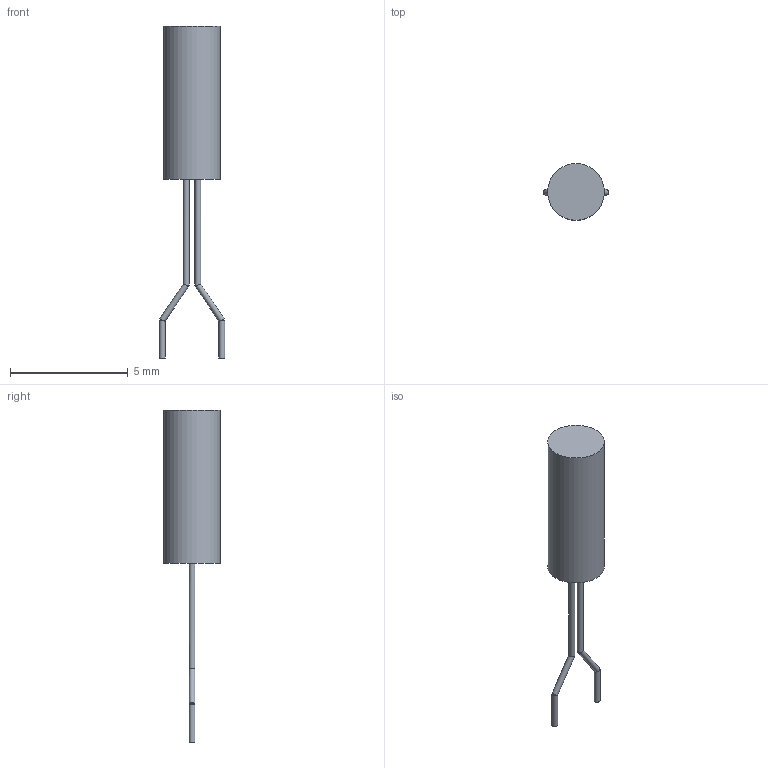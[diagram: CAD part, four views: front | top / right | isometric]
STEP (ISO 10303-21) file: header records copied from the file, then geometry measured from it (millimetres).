
FILE_DESCRIPTION(('Open CASCADE Model'),'2;1');
FILE_NAME('Open CASCADE Shape Model','2026-10-11T15:10:18',('Author'),( 'Open CASCADE'),'Open CASCADE STEP processor 7.9','Open CASCADE 7.9' ,'Unknown');
FILE_SCHEMA(('AUTOMOTIVE_DESIGN { 1 0 10303 214 1 1 1 1 }'));
Length unit declared in the file: millimetre
Products named in the file (4): B57861S_onboard_formed_leads; epoxy_max_envelope; formed_wire_1; formed_wire_2
Assembly tree (3 placements, depth 2):
  B57861S_onboard_formed_leads
    epoxy_max_envelope
    formed_wire_1
    formed_wire_2
Bounding box: 2.79 x 2.41 x 14.1 mm (x, y, z)
Volume: 30.4 mm3; surface area: 71.1 mm2
Topology: 3 solids, 3 shells, 21 faces, 36 edges, 21 vertices
Faces by surface type: plane 14, cylinder 7
Full cylindrical faces by diameter (mm): 0.25 x6, 2.41 x1
Entity records: 1109 total; most frequent: CARTESIAN_POINT 250, DIRECTION 161, ORIENTED_EDGE 72, PCURVE 72, DEFINITIONAL_REPRESENTATION 72, AXIS2_PLACEMENT_3D 50, LINE 43, VECTOR 43
